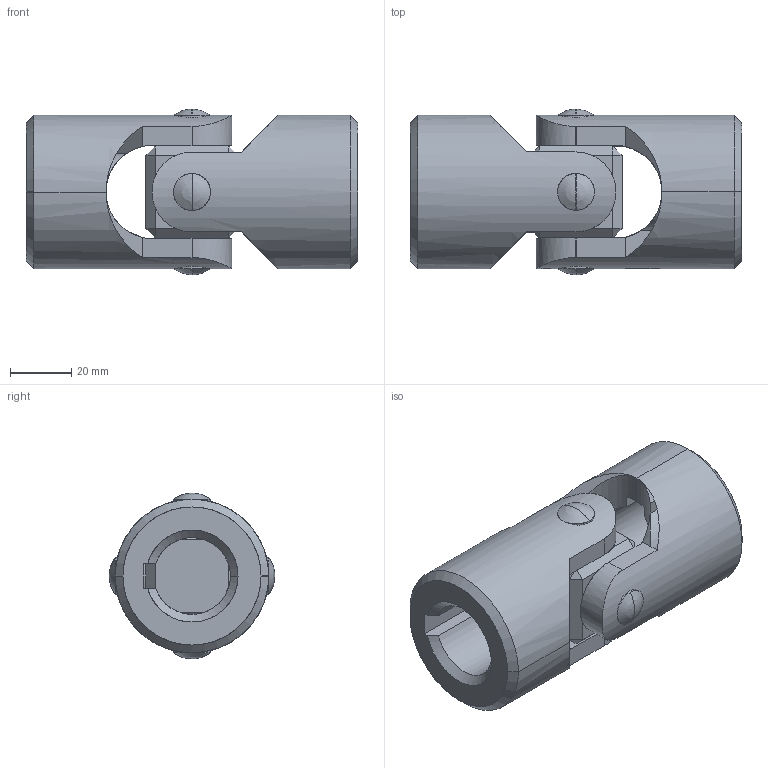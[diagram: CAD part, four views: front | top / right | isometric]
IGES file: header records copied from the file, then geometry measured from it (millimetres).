
Start section: SolidWorks IGES file using analytic representation for surfaces
Global section: file name: E:\WIXROYD\65186_v2\65186_v2_20180418_IGES\Default.igs; native system: SolidWorks 2017; preprocessor: SolidWorks 2017; author: liam_; date: 180618.201653; units: millimetre
Bounding box: 108 x 54 x 54 mm (x, y, z)
Surface area: 38854 mm2 (no closed solid volume)
Topology: 0 solids, 0 shells, 104 faces, 2016 edges, 2012 vertices
Faces by surface type: bspline 54, revolution 50
